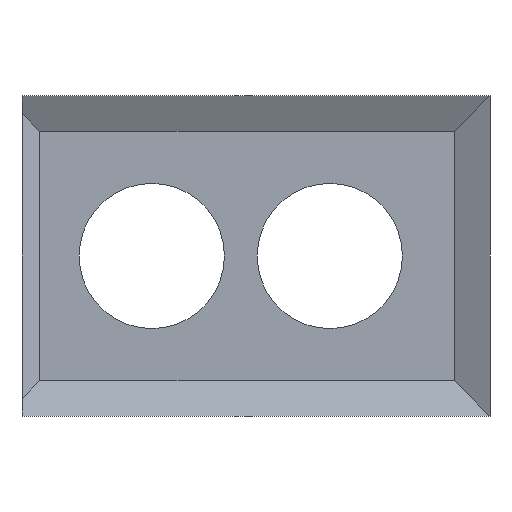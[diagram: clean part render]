
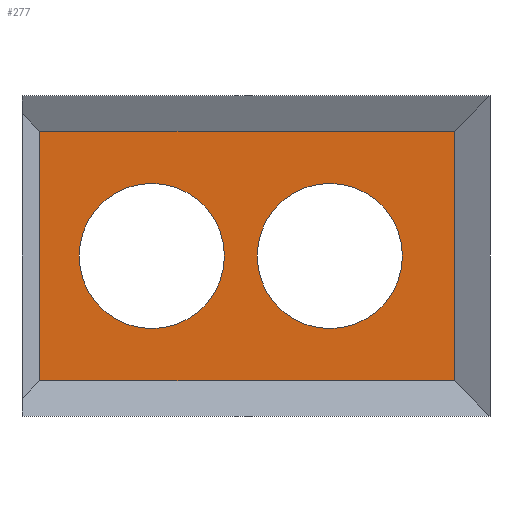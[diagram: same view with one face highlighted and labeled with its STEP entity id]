
A CAD part, front view. The second image highlights one B-rep face of the part: STEP entity #277.
In plain terms, the highlighted planar face has unit normal (0, -1, 0).
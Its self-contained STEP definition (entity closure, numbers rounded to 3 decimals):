
#24=FACE_BOUND('',#52,.T.);
#25=FACE_BOUND('',#53,.T.);
#28=CIRCLE('',#308,4.079);
#29=CIRCLE('',#310,4.079);
#33=FACE_OUTER_BOUND('',#51,.T.);
#51=EDGE_LOOP('',(#202,#203,#204,#205));
#52=EDGE_LOOP('',(#206));
#53=EDGE_LOOP('',(#207));
#72=LINE('',#423,#104);
#73=LINE('',#425,#105);
#74=LINE('',#427,#106);
#75=LINE('',#428,#107);
#104=VECTOR('',#348,10.);
#105=VECTOR('',#349,10.);
#106=VECTOR('',#350,10.);
#107=VECTOR('',#351,10.);
#136=VERTEX_POINT('',#413);
#137=VERTEX_POINT('',#417);
#138=VERTEX_POINT('',#421);
#139=VERTEX_POINT('',#422);
#140=VERTEX_POINT('',#424);
#141=VERTEX_POINT('',#426);
#158=EDGE_CURVE('',#136,#136,#28,.T.);
#160=EDGE_CURVE('',#137,#137,#29,.T.);
#162=EDGE_CURVE('',#138,#139,#72,.T.);
#163=EDGE_CURVE('',#140,#138,#73,.T.);
#164=EDGE_CURVE('',#141,#140,#74,.T.);
#165=EDGE_CURVE('',#139,#141,#75,.T.);
#202=ORIENTED_EDGE('',*,*,#162,.F.);
#203=ORIENTED_EDGE('',*,*,#163,.F.);
#204=ORIENTED_EDGE('',*,*,#164,.F.);
#205=ORIENTED_EDGE('',*,*,#165,.F.);
#206=ORIENTED_EDGE('',*,*,#160,.F.);
#207=ORIENTED_EDGE('',*,*,#158,.F.);
#261=PLANE('',#311);
#277=ADVANCED_FACE('',(#33,#24,#25),#261,.T.);
#308=AXIS2_PLACEMENT_3D('',#414,#338,#339);
#310=AXIS2_PLACEMENT_3D('',#418,#343,#344);
#311=AXIS2_PLACEMENT_3D('',#420,#346,#347);
#338=DIRECTION('center_axis',(0.,-1.,0.));
#339=DIRECTION('ref_axis',(1.,0.,0.));
#343=DIRECTION('center_axis',(0.,-1.,0.));
#344=DIRECTION('ref_axis',(1.,0.,0.));
#346=DIRECTION('center_axis',(0.,-1.,0.));
#347=DIRECTION('ref_axis',(1.,0.,0.));
#348=DIRECTION('',(1.,0.,0.));
#349=DIRECTION('',(0.,0.,1.));
#350=DIRECTION('',(-1.,0.,0.));
#351=DIRECTION('',(0.,0.,-1.));
#413=CARTESIAN_POINT('',(-84.829,-44.,-54.548));
#414=CARTESIAN_POINT('Origin',(-80.75,-44.,-54.548));
#417=CARTESIAN_POINT('',(-74.829,-44.,-54.548));
#418=CARTESIAN_POINT('Origin',(-70.75,-44.,-54.548));
#420=CARTESIAN_POINT('Origin',(-75.395,-44.,-54.548));
#421=CARTESIAN_POINT('',(-87.04,-44.,-47.548));
#422=CARTESIAN_POINT('',(-63.75,-44.,-47.548));
#423=CARTESIAN_POINT('',(-87.04,-44.,-47.548));
#424=CARTESIAN_POINT('',(-87.04,-44.,-61.548));
#425=CARTESIAN_POINT('',(-87.04,-44.,-61.548));
#426=CARTESIAN_POINT('',(-63.75,-44.,-61.548));
#427=CARTESIAN_POINT('',(-63.75,-44.,-61.548));
#428=CARTESIAN_POINT('',(-63.75,-44.,-47.548));
